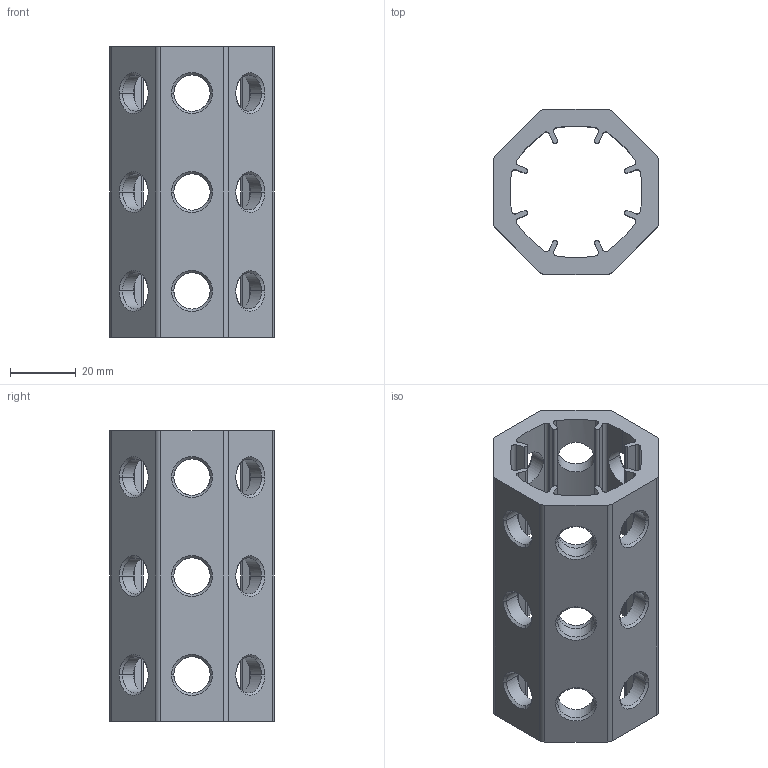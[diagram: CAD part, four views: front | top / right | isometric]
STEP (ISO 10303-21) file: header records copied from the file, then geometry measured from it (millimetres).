
FILE_DESCRIPTION(('CATIA V5 STEP Exchange'),'2;1');
FILE_NAME('U:\Room\唐宝山\EGT002\46-01-010232-01-EGT002-88.stp','2021-08-24T00:54:56+00:00',('none'),('none'),'CATIA Version 5 Release 21 GA (IN-10)','CATIA V5 STEP AP203','none');
FILE_SCHEMA(('CONFIG_CONTROL_DESIGN'));
Length unit declared in the file: millimetre
Products named in the file (1): 46-01-010232-01-EGT002-88
Bounding box: 50 x 50 x 88 mm (x, y, z)
Volume: 62448.3 mm3; surface area: 31830.5 mm2
Topology: 1 solids, 1 shells, 204 faces, 576 edges, 368 vertices
Faces by surface type: cylinder 106, cone 72, plane 26
Entity records: 7873 total; most frequent: CARTESIAN_POINT 2740, ORIENTED_EDGE 1152, DIRECTION 856, EDGE_CURVE 576, AXIS2_PLACEMENT_3D 397, VERTEX_POINT 368, VECTOR 256, LINE 256
